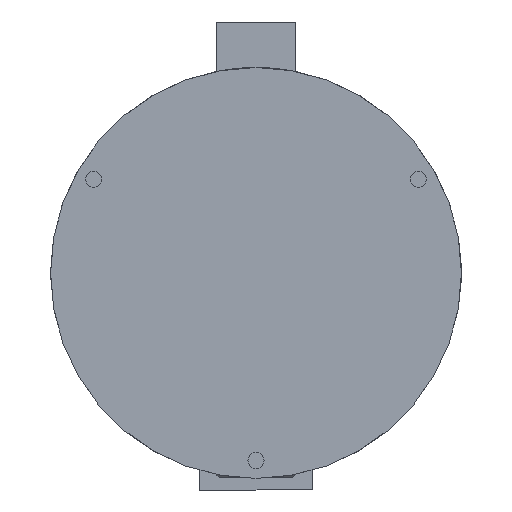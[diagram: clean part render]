
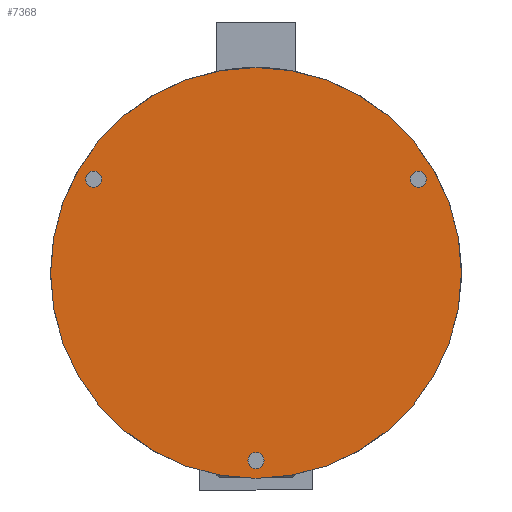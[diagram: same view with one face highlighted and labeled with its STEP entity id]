
A CAD part, front view. The second image highlights one B-rep face of the part: STEP entity #7368.
In plain terms, the highlighted planar face has unit normal (0, -1, 0).
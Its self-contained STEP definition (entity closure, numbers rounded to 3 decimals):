
#15 = EDGE_LOOP ( 'NONE', ( #9023, #2818 ) ) ;
#255 = ORIENTED_EDGE ( 'NONE', *, *, #4249, .F. ) ;
#323 = DIRECTION ( 'NONE',  ( 0., 0., 1. ) ) ;
#370 = EDGE_CURVE ( 'NONE', #1205, #5450, #6066, .T. ) ;
#455 = DIRECTION ( 'NONE',  ( 0., 1., 0. ) ) ;
#502 = VERTEX_POINT ( 'NONE', #2018 ) ;
#1004 = DIRECTION ( 'NONE',  ( 0., 1., 0. ) ) ;
#1066 = AXIS2_PLACEMENT_3D ( 'NONE', #2559, #455, #323 ) ;
#1205 = VERTEX_POINT ( 'NONE', #5468 ) ;
#1308 = EDGE_LOOP ( 'NONE', ( #7611, #7571 ) ) ;
#1316 = DIRECTION ( 'NONE',  ( 0., 1., 0. ) ) ;
#1330 = EDGE_CURVE ( 'NONE', #5450, #1205, #2777, .T. ) ;
#1342 = FACE_BOUND ( 'NONE', #15, .T. ) ;
#1380 = DIRECTION ( 'NONE',  ( 0., 0., 1. ) ) ;
#1739 = CIRCLE ( 'NONE', #2621, 4.5 ) ;
#1803 = CARTESIAN_POINT ( 'NONE',  ( 0., 0., 115. ) ) ;
#2018 = CARTESIAN_POINT ( 'NONE',  ( 90.933, 0., 57. ) ) ;
#2025 = CARTESIAN_POINT ( 'NONE',  ( 0., 0., 0. ) ) ;
#2092 = AXIS2_PLACEMENT_3D ( 'NONE', #2025, #7025, #2743 ) ;
#2132 = EDGE_CURVE ( 'NONE', #502, #4763, #2433, .T. ) ;
#2195 = AXIS2_PLACEMENT_3D ( 'NONE', #9043, #3659, #1380 ) ;
#2333 = CARTESIAN_POINT ( 'NONE',  ( 90.933, 0., 52.5 ) ) ;
#2433 = CIRCLE ( 'NONE', #1066, 4.5 ) ;
#2501 = CARTESIAN_POINT ( 'NONE',  ( 0., 0., 0. ) ) ;
#2531 = EDGE_LOOP ( 'NONE', ( #255, #8246 ) ) ;
#2559 = CARTESIAN_POINT ( 'NONE',  ( 90.933, 0., 52.5 ) ) ;
#2573 = CARTESIAN_POINT ( 'NONE',  ( -90.933, 0., 48. ) ) ;
#2621 = AXIS2_PLACEMENT_3D ( 'NONE', #7451, #3158, #8150 ) ;
#2743 = DIRECTION ( 'NONE',  ( 0., 0., 1. ) ) ;
#2777 = CIRCLE ( 'NONE', #3796, 4.5 ) ;
#2818 = ORIENTED_EDGE ( 'NONE', *, *, #7819, .T. ) ;
#2874 = AXIS2_PLACEMENT_3D ( 'NONE', #5304, #1004, #6026 ) ;
#2992 = FACE_OUTER_BOUND ( 'NONE', #2531, .T. ) ;
#3056 = DIRECTION ( 'NONE',  ( 0., 0., 1. ) ) ;
#3158 = DIRECTION ( 'NONE',  ( 0., 1., 0. ) ) ;
#3224 = DIRECTION ( 'NONE',  ( 0., 0., 1. ) ) ;
#3313 = CIRCLE ( 'NONE', #9087, 4.5 ) ;
#3429 = EDGE_CURVE ( 'NONE', #4175, #5010, #1739, .T. ) ;
#3476 = CARTESIAN_POINT ( 'NONE',  ( 90.933, 0., 48. ) ) ;
#3498 = VERTEX_POINT ( 'NONE', #1803 ) ;
#3659 = DIRECTION ( 'NONE',  ( 0., 1., 0. ) ) ;
#3796 = AXIS2_PLACEMENT_3D ( 'NONE', #7246, #7279, #7305 ) ;
#4023 = EDGE_CURVE ( 'NONE', #4763, #502, #5333, .T. ) ;
#4175 = VERTEX_POINT ( 'NONE', #8527 ) ;
#4249 = EDGE_CURVE ( 'NONE', #7128, #3498, #7864, .T. ) ;
#4763 = VERTEX_POINT ( 'NONE', #3476 ) ;
#4780 = ORIENTED_EDGE ( 'NONE', *, *, #2132, .T. ) ;
#4906 = FACE_BOUND ( 'NONE', #5332, .T. ) ;
#5010 = VERTEX_POINT ( 'NONE', #2573 ) ;
#5304 = CARTESIAN_POINT ( 'NONE',  ( 0., 0., 0. ) ) ;
#5332 = EDGE_LOOP ( 'NONE', ( #4780, #6583 ) ) ;
#5333 = CIRCLE ( 'NONE', #9092, 4.5 ) ;
#5450 = VERTEX_POINT ( 'NONE', #5885 ) ;
#5468 = CARTESIAN_POINT ( 'NONE',  ( 0., 0., -100.5 ) ) ;
#5644 = CARTESIAN_POINT ( 'NONE',  ( -90.933, 0., 52.5 ) ) ;
#5726 = CARTESIAN_POINT ( 'NONE',  ( 0., 0., -115. ) ) ;
#5885 = CARTESIAN_POINT ( 'NONE',  ( 0., 0., -109.5 ) ) ;
#6026 = DIRECTION ( 'NONE',  ( 0., 0., 1. ) ) ;
#6066 = CIRCLE ( 'NONE', #2195, 4.5 ) ;
#6111 = PLANE ( 'NONE',  #8720 ) ;
#6149 = CIRCLE ( 'NONE', #2092, 115. ) ;
#6335 = DIRECTION ( 'NONE',  ( 0., 0., 1. ) ) ;
#6583 = ORIENTED_EDGE ( 'NONE', *, *, #4023, .T. ) ;
#7025 = DIRECTION ( 'NONE',  ( 0., 1., 0. ) ) ;
#7128 = VERTEX_POINT ( 'NONE', #5726 ) ;
#7246 = CARTESIAN_POINT ( 'NONE',  ( 0., 0., -105. ) ) ;
#7279 = DIRECTION ( 'NONE',  ( 0., 1., 0. ) ) ;
#7305 = DIRECTION ( 'NONE',  ( 0., 0., 1. ) ) ;
#7340 = DIRECTION ( 'NONE',  ( 0., 1., 0. ) ) ;
#7368 = ADVANCED_FACE ( 'NONE', ( #1342, #4906, #8659, #2992 ), #6111, .F. ) ;
#7451 = CARTESIAN_POINT ( 'NONE',  ( -90.933, 0., 52.5 ) ) ;
#7511 = DIRECTION ( 'NONE',  ( 0., 1., 0. ) ) ;
#7571 = ORIENTED_EDGE ( 'NONE', *, *, #1330, .T. ) ;
#7611 = ORIENTED_EDGE ( 'NONE', *, *, #370, .T. ) ;
#7819 = EDGE_CURVE ( 'NONE', #5010, #4175, #3313, .T. ) ;
#7864 = CIRCLE ( 'NONE', #2874, 115. ) ;
#8150 = DIRECTION ( 'NONE',  ( 0., 0., 1. ) ) ;
#8246 = ORIENTED_EDGE ( 'NONE', *, *, #8446, .F. ) ;
#8446 = EDGE_CURVE ( 'NONE', #3498, #7128, #6149, .T. ) ;
#8527 = CARTESIAN_POINT ( 'NONE',  ( -90.933, 0., 57. ) ) ;
#8659 = FACE_BOUND ( 'NONE', #1308, .T. ) ;
#8720 = AXIS2_PLACEMENT_3D ( 'NONE', #2501, #7511, #3224 ) ;
#9023 = ORIENTED_EDGE ( 'NONE', *, *, #3429, .T. ) ;
#9043 = CARTESIAN_POINT ( 'NONE',  ( 0., 0., -105. ) ) ;
#9087 = AXIS2_PLACEMENT_3D ( 'NONE', #5644, #1316, #6335 ) ;
#9092 = AXIS2_PLACEMENT_3D ( 'NONE', #2333, #7340, #3056 ) ;
